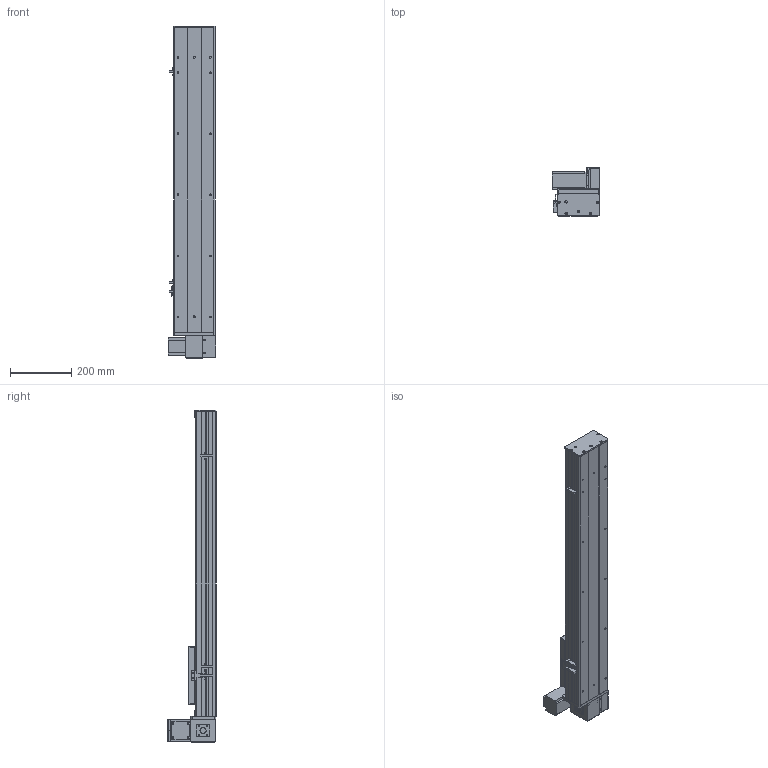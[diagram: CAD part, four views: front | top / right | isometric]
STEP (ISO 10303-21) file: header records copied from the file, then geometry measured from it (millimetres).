
FILE_DESCRIPTION (( 'STEP AP203' ), '1' );
FILE_NAME ('Y135CB-D90-S700-UL-P400W.STEP', '2020-02-18T07:13:30', ( '微软用户' ), ( '微软中国' ), 'SwSTEP 2.0', 'SolidWorks 2017', '' );
FILE_SCHEMA (( 'CONFIG_CONTROL_DESIGN' ));
Length unit declared in the file: millimetre
Products named in the file (18): 00B-俋欶BM--; 5CB --掛极耜裔啣-; Y10B--々湍喘謫眊--666; C-詩湍揤踡え-陔; Y135CB-耜裔; Y135CB-D90-S700-UL-P400W; 135CB--詩湍-CE; 135CB---遴掛极.-; Y100-135俋离換覜ん--; 35CB---喘謫眊楊擘啣; Y135C-陔俋离換覜結え-; 0B-埴倛裔啣; 5C--俋欶; 0B-源倛裔啣; C-雄赽釱--; 0B-萇儂楊擘啣; Y10B-耜蚾蟀諉啣----; san松下电机400不带刹车----
Assembly tree (21 placements, depth 2):
  Y135CB-D90-S700-UL-P400W
    Y135CB-耜裔
    135CB---遴掛极.-
    35CB---喘謫眊楊擘啣
    0B-埴倛裔啣
    0B-源倛裔啣
    0B-萇儂楊擘啣
    san松下电机400不带刹车----
    5CB --掛极耜裔啣-  x2
    C-詩湍揤踡え-陔  x2
    135CB--詩湍-CE
    Y100-135俋离換覜ん--  x3
    Y135C-陔俋离換覜結え-
    5C--俋欶
    C-雄赽釱--
    Y10B-耜蚾蟀諉啣----
    00B-俋欶BM--
    Y10B--々湍喘謫眊--666
Bounding box: 157 x 158.7 x 1088 mm (x, y, z)
Volume: 3607265.4 mm3; surface area: 1403515.1 mm2
Topology: 21 solids, 21 shells, 941 faces, 2509 edges, 1662 vertices
Faces by surface type: cylinder 469, plane 456, cone 16
Entity records: 29147 total; most frequent: DIRECTION 4841, CARTESIAN_POINT 4768, ORIENTED_EDGE 4494, EDGE_CURVE 2247, AXIS2_PLACEMENT_3D 1763, VERTEX_POINT 1490, LINE 1315, VECTOR 1315
